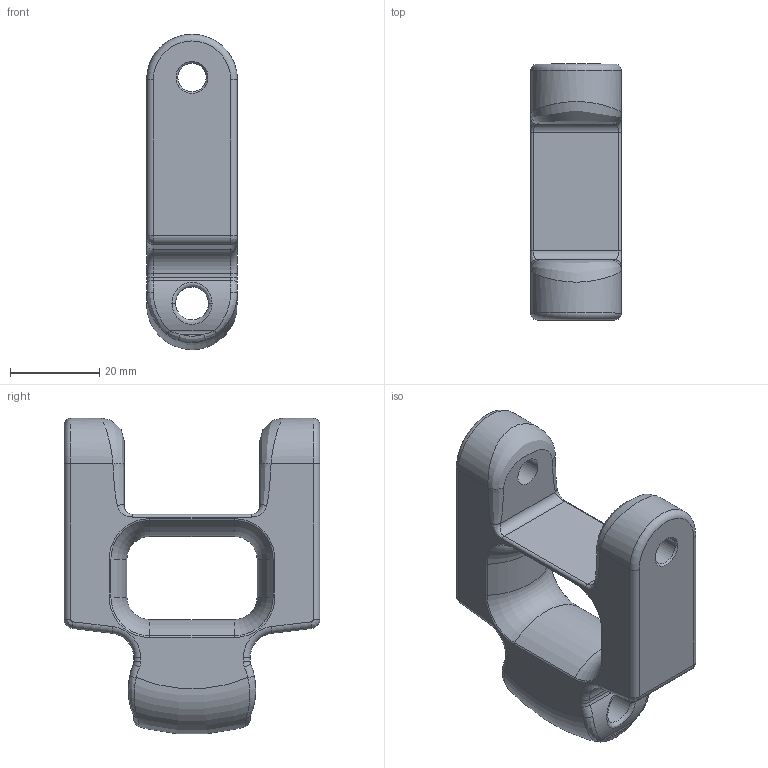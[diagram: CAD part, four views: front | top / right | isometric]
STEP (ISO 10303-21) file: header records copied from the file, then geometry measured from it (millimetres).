
FILE_DESCRIPTION((''),'2;1');
FILE_NAME('P678','2015-11-20T',('bhe'),(''),'CREO PARAMETRIC BY PTC INC, 2015290','CREO PARAMETRIC BY PTC INC, 2015290','');
FILE_SCHEMA(('CONFIG_CONTROL_DESIGN'));
Length unit declared in the file: millimetre
Products named in the file (1): P678
Bounding box: 20.3 x 57.2 x 70.56 mm (x, y, z)
Volume: 36977 mm3; surface area: 11302.4 mm2
Topology: 1 solids, 1 shells, 118 faces, 272 edges, 156 vertices
Faces by surface type: cylinder 46, bspline 28, torus 27, plane 13, cone 4
Entity records: 7092 total; most frequent: CARTESIAN_POINT 4478, DIRECTION 550, ORIENTED_EDGE 544, EDGE_CURVE 272, AXIS2_PLACEMENT_3D 236, VERTEX_POINT 156, CIRCLE 146, EDGE_LOOP 126
